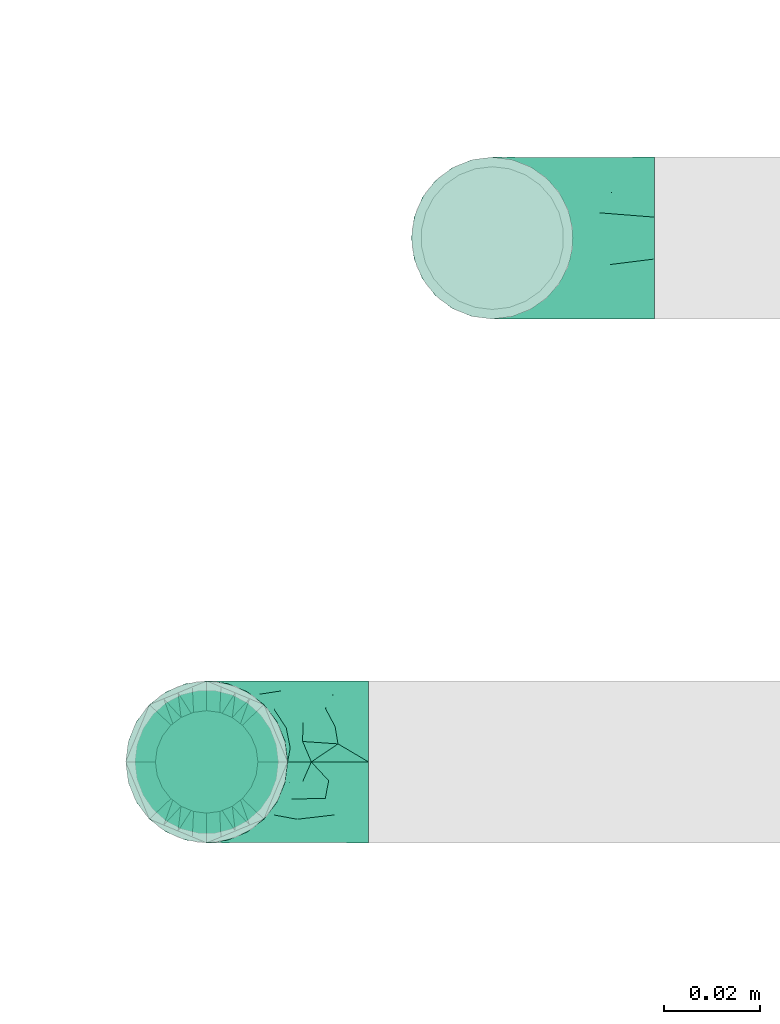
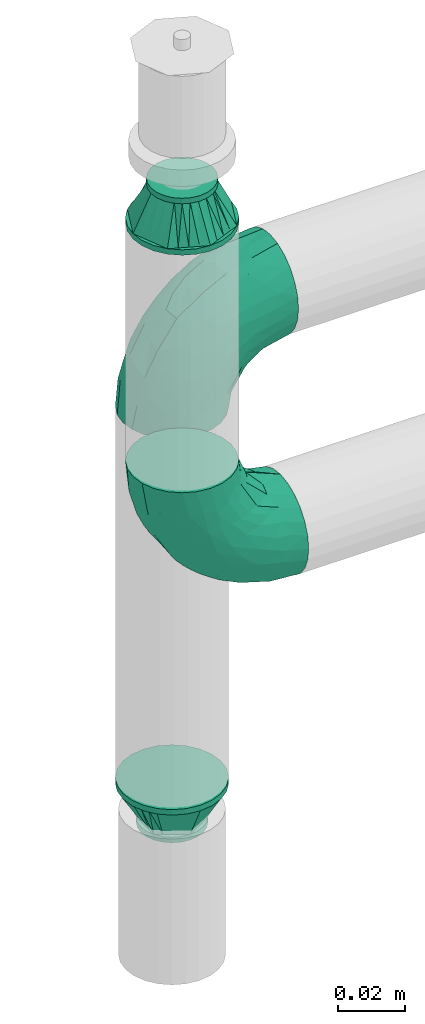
# One storey, part 36 of 157: 4 flow fittings.
"""IFC2X3 building model written with IfcOpenShell, lengths in millimetres."""

import ifcopenshell
import ifcopenshell.guid

model = None  # the IFC model being written
_history = None  # IfcOwnerHistory: only IFC2X3 demands one
_inside = {}  # id of a spatial element -> (the spatial element, [elements in it])
_under = {}  # id of a project, library or spatial element -> (it, [spatial elements below it])
_declared = {}  # id of a project -> (the project, [libraries it declares])
_typed = {}  # id of a type object -> (the type object, [elements of that type])
_made_of = {}  # id of a material, layer set ... -> (it, [elements and type objects made of it])


def new_model(schema):
    """Start an empty IFC model of exactly this schema.

    Asked for "IFC4X3", IfcOpenShell would pick the latest addendum, in which some entities
    have other attributes; the version numbers below select the first issue.
    IFC2X3 requires an IfcOwnerHistory on every rooted entity: one is made here for all.
    """
    global model, _history
    if schema == "IFC4X3":
        model = ifcopenshell.file(schema_version=(4, 3, 0, 0))
    else:
        model = ifcopenshell.file(schema=schema)
    _inside.clear()
    _under.clear()
    _declared.clear()
    _typed.clear()
    _made_of.clear()
    _history = None
    if model.schema == "IFC2X3":
        org = make("IfcOrganization", Name="unknown")
        user = make(
            "IfcPersonAndOrganization",
            ThePerson=make("IfcPerson", FamilyName="unknown"),
            TheOrganization=org,
        )
        app = make(
            "IfcApplication",
            ApplicationDeveloper=org,
            Version="unknown",
            ApplicationFullName="unknown",
            ApplicationIdentifier="unknown",
        )
        _history = make(
            "IfcOwnerHistory",
            OwningUser=user,
            OwningApplication=app,
            ChangeAction="ADDED",
            CreationDate=0,
        )
    return model


def make(cls, **values):
    """One entity of the class cls with the attributes given. An attribute that is None is left unset."""
    return model.create_entity(
        cls, **{name: value for name, value in values.items() if value is not None}
    )


def entity(cls, *values):
    """Any entity or typed value of the class cls, its attributes in the order of the schema. None: left unset."""
    e = model.create_entity(cls)
    for i, value in enumerate(values):
        if value is not None:
            e[i] = value
    return e


def rooted(cls, **values):
    """An entity with a GlobalId (a new one), such as an element, a storey or a relation."""
    return make(cls, GlobalId=ifcopenshell.guid.new(), OwnerHistory=_history, **values)


def si_unit(unit_type, name, prefix=None):
    """IfcSIUnit, for example si_unit("LENGTHUNIT", "METRE", prefix="MILLI")."""
    return make("IfcSIUnit", UnitType=unit_type, Prefix=prefix, Name=name)


def converted_unit(unit_type, name, factor, base, dimensions=None, offset=None):
    """IfcConversionBasedUnit, such as the inch: factor (a typed value) times the base unit."""
    return make(
        "IfcConversionBasedUnit"
        if offset is None
        else "IfcConversionBasedUnitWithOffset",
        ConversionOffset=offset,
        Dimensions=None
        if dimensions is None
        else entity("IfcDimensionalExponents", *dimensions),
        UnitType=unit_type,
        Name=name,
        ConversionFactor=make(
            "IfcMeasureWithUnit", ValueComponent=factor, UnitComponent=base
        ),
    )


def derived_unit(unit_type, elements):
    """IfcDerivedUnit: a product of units, each with its exponent."""
    return make(
        "IfcDerivedUnit",
        Elements=[
            make("IfcDerivedUnitElement", Unit=unit, Exponent=power)
            for unit, power in elements
        ],
        UnitType=unit_type,
    )


def assignment(units):
    """IfcUnitAssignment: the units of a project."""
    return None if units is None else make("IfcUnitAssignment", Units=units)


def point(xyz):
    """IfcCartesianPoint."""
    return None if xyz is None else make("IfcCartesianPoint", Coordinates=xyz)


def direction(xyz):
    """IfcDirection."""
    return None if xyz is None else make("IfcDirection", DirectionRatios=xyz)


def frame(location, z_axis=None, x_axis=None):
    """IfcAxis2Placement3D, a coordinate frame: its origin and axes. An axis left out is left unset."""
    return make(
        "IfcAxis2Placement3D",
        Location=point(location),
        Axis=direction(z_axis),
        RefDirection=direction(x_axis),
    )


def origin_with_axes():
    """The frame at (0, 0, 0) with the z axis (0, 0, 1) and the x axis (1, 0, 0) written out."""
    return frame((0.0, 0.0, 0.0), z_axis=(0.0, 0.0, 1.0), x_axis=(1.0, 0.0, 0.0))


def place(relative_to, where):
    """IfcLocalPlacement: puts the frame where relative to a parent placement (None: the world)."""
    return make(
        "IfcLocalPlacement", PlacementRelTo=relative_to, RelativePlacement=where
    )


def context(
    kind, dimensions, precision=None, world=None, true_north=None, identifier=None
):
    """IfcGeometricRepresentationContext, for example the 3D "Model" context."""
    return make(
        "IfcGeometricRepresentationContext",
        ContextIdentifier=identifier,
        ContextType=kind,
        CoordinateSpaceDimension=dimensions,
        Precision=precision,
        WorldCoordinateSystem=world,
        TrueNorth=true_north,
    )


def subcontext(parent, identifier, kind, view, scale=None):
    """IfcGeometricRepresentationSubContext, for example "Body" below "Model"."""
    return make(
        "IfcGeometricRepresentationSubContext",
        ContextIdentifier=identifier,
        ContextType=kind,
        ParentContext=parent,
        TargetScale=scale,
        TargetView=view,
    )


def project(units=None, contexts=None):
    """IfcProject with its units and contexts."""
    return rooted(
        "IfcProject",
        Name="project",
        RepresentationContexts=contexts,
        UnitsInContext=assignment(units),
    )


def spatial(cls, under=None, at=None, **own):
    """A site, building, storey or space (cls), placed at a placement, below another one or the project."""
    s = rooted(cls, ObjectPlacement=at, **own)
    if under is not None:
        _under.setdefault(under.id(), (under, []))[1].append(s)
    return s


def faces_of(points, faces, orient=None, outer=None):
    """IfcFace entities. A face is a list of loops; a loop is a list of indices into points, from 0.

    orient and outer hold one flag for each loop. By default every Orientation is true, the
    first loop of a face is its IfcFaceOuterBound and the others are IfcFaceBound.
    """
    made = []
    for i, loops in enumerate(faces):
        bounds = []
        for j, loop in enumerate(loops):
            is_outer = j == 0 if outer is None else outer[i][j]
            bounds.append(
                make(
                    "IfcFaceOuterBound" if is_outer else "IfcFaceBound",
                    Bound=make("IfcPolyLoop", Polygon=[points[k] for k in loop]),
                    Orientation=True if orient is None else orient[i][j],
                )
            )
        made.append(make("IfcFace", Bounds=bounds))
    return made


def open_shell(faces, orient=None, outer=None):
    """The faces of one IfcOpenShell. surface_model builds it on its shared points."""
    return ("IfcOpenShell", faces, orient, outer)


def surface_model(cls, points, shells):
    """IfcFaceBasedSurfaceModel or IfcShellBasedSurfaceModel (cls): surfaces that need not close."""
    shared = [point(p) for p in points]
    made = [make(c, CfsFaces=faces_of(shared, fs, o, b)) for c, fs, o, b in shells]
    if cls == "IfcFaceBasedSurfaceModel":
        return make(cls, FbsmFaces=made)
    return make(cls, SbsmBoundary=made)


def shape(context_of_items, identifier, shape_type, items):
    """IfcShapeRepresentation: the items that make up one representation, for example the "Body"."""
    return make(
        "IfcShapeRepresentation",
        ContextOfItems=context_of_items,
        RepresentationIdentifier=identifier,
        RepresentationType=shape_type,
        Items=items,
    )


def source(mapping_origin, context_of_items, identifier, shape_type, items):
    """IfcRepresentationMap: a shape defined once, which mapped items show again and again."""
    return make(
        "IfcRepresentationMap",
        MappingOrigin=mapping_origin,
        MappedRepresentation=shape(context_of_items, identifier, shape_type, items),
    )


def transform(
    local_origin,
    x_axis=None,
    y_axis=None,
    z_axis=None,
    scale=None,
    scale2=None,
    scale3=None,
    uniform=True,
):
    """IfcCartesianTransformationOperator3D, or its non-uniform kind. x_axis, y_axis, z_axis: its Axis1, 2, 3."""
    if uniform:
        return make(
            "IfcCartesianTransformationOperator3D",
            Axis1=direction(x_axis),
            Axis2=direction(y_axis),
            LocalOrigin=point(local_origin),
            Scale=scale,
            Axis3=direction(z_axis),
        )
    return make(
        "IfcCartesianTransformationOperator3DnonUniform",
        Axis1=direction(x_axis),
        Axis2=direction(y_axis),
        LocalOrigin=point(local_origin),
        Scale=scale,
        Axis3=direction(z_axis),
        Scale2=scale2,
        Scale3=scale3,
    )


def mapped(mapping_source, mapping_target):
    """IfcMappedItem: shows the shape of a source again, moved by a transform."""
    return make(
        "IfcMappedItem", MappingSource=mapping_source, MappingTarget=mapping_target
    )


def made_of(thing, what):
    """Note that an element or type object is made of a material, layer set ...; save() writes the relation."""
    if what is not None:
        _made_of.setdefault(what.id(), (what, []))[1].append(thing)
    return thing


def type_object(cls, material=None, **own):
    """A type object (cls), such as IfcWallType, which elements share."""
    return made_of(rooted(cls, **own), material)


def element(
    cls,
    number,
    at=None,
    inside=None,
    cuts=None,
    type_object=None,
    material=None,
    context=None,
    identifier="Body",
    shape_type=None,
    held_by="IfcProductDefinitionShape",
    body=None,
    shapes=None,
    **own,
):
    """One element of the class cls, such as IfcWall. Its Tag is "e" and its number.

    at: its placement. inside: the storey or other place that contains it. cuts: it is an
    opening in that element (IfcRelVoidsElement). A single representation is given by context,
    identifier, shape_type and body (its items); several are given by shapes. held_by: the class
    of the entity that holds the representations. save() writes the other relations.
    """
    e = rooted(cls, Tag="e%d" % number, ObjectPlacement=at, **own)
    if body is not None:
        shapes = [shape(context, identifier, shape_type, body)]
    if shapes is not None:
        e.Representation = make(held_by, Representations=shapes)
    if inside is not None:
        _inside.setdefault(inside.id(), (inside, []))[1].append(e)
    if cuts is not None:
        rooted(
            "IfcRelVoidsElement", RelatingBuildingElement=cuts, RelatedOpeningElement=e
        )
    if type_object is not None:
        _typed.setdefault(type_object.id(), (type_object, []))[1].append(e)
    return made_of(e, material)


def aggregate(whole, parts):
    """IfcRelAggregates: a whole, such as a stair, and the parts it consists of."""
    return rooted("IfcRelAggregates", RelatingObject=whole, RelatedObjects=parts)


def save(model, path):
    """Write the relations noted so far, then the file.

    IfcRelAggregates (storeys below a building ...), IfcRelContainedInSpatialStructure (elements
    in a storey), IfcRelDefinesByType, IfcRelAssociatesMaterial and IfcRelDeclares: one each for
    every whole, place, type object, material and project.
    """
    for whole, parts in _under.values():
        aggregate(whole, parts)
    for where, things in _inside.values():
        rooted(
            "IfcRelContainedInSpatialStructure",
            RelatedElements=things,
            RelatingStructure=where,
        )
    for kind, things in _typed.values():
        rooted("IfcRelDefinesByType", RelatedObjects=things, RelatingType=kind)
    for what, things in _made_of.values():
        rooted("IfcRelAssociatesMaterial", RelatedObjects=things, RelatingMaterial=what)
    for by, libraries in _declared.values():
        rooted("IfcRelDeclares", RelatingContext=by, RelatedDefinitions=libraries)
    model.write(path)


model = new_model("IFC2X3")

# Units and contexts
model_context = context("Model", 3, precision=0.01, world=frame((0.0, 4.29681676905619e-09, 0.0)), true_north=direction((4.01073788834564e-13, 1.0)))
plan_context = context("Plan", 3, precision=0.01, world=frame((0.0, 4.29681676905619e-09, 0.0)), true_north=direction((4.01073788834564e-13, 1.0)))
body_context = subcontext(model_context, "Body", "Model", "MODEL_VIEW")
ifc_project = project(units=[converted_unit("PLANEANGLEUNIT", "DEGREE", entity("IfcPositiveLengthMeasure", 0.0174532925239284), si_unit("PLANEANGLEUNIT", "RADIAN"), dimensions=[0, 0, 0, 0, 0, 0, 0]), si_unit("AREAUNIT", "SQUARE_METRE"), si_unit("LENGTHUNIT", "METRE", prefix="MILLI"), si_unit("MASSUNIT", "GRAM", prefix="KILO"), si_unit("POWERUNIT", "WATT"), si_unit("PRESSUREUNIT", "PASCAL"), si_unit("FORCEUNIT", "NEWTON", prefix="KILO"), si_unit("ELECTRICCURRENTUNIT", "AMPERE"), si_unit("THERMODYNAMICTEMPERATUREUNIT", "DEGREE_CELSIUS"), si_unit("TIMEUNIT", "SECOND"), si_unit("VOLUMEUNIT", "CUBIC_METRE"), derived_unit("LINEARVELOCITYUNIT", [(si_unit("LENGTHUNIT", "METRE"), 1), (si_unit("TIMEUNIT", "SECOND"), -1)]), derived_unit("VOLUMETRICFLOWRATEUNIT", [(si_unit("VOLUMEUNIT", "CUBIC_METRE"), 1), (si_unit("TIMEUNIT", "SECOND"), -1)]), derived_unit("THERMALTRANSMITTANCEUNIT", [(si_unit("POWERUNIT", "WATT"), 1), (si_unit("THERMODYNAMICTEMPERATUREUNIT", "KELVIN"), -1), (si_unit("AREAUNIT", "SQUARE_METRE"), -1)])], contexts=[model_context, plan_context])

# Site, building, storey
site_placement = place(None, frame((0.0, -4.29681676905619e-09, 0.0), z_axis=(0.0, 0.0, 1.0), x_axis=(1.0, 0.0, 0.0)))
site = spatial("IfcSite", under=ifc_project, at=site_placement, CompositionType="ELEMENT")
building_placement = place(site_placement, frame((0.0, 4.29681676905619e-09, 0.0), z_axis=(0.0, 0.0, 1.0), x_axis=(1.0, 0.0, 0.0)))
building = spatial("IfcBuilding", under=site, at=building_placement, Name="mc-building", CompositionType="ELEMENT")
storey_placement = place(building_placement, frame((0.0, 0.0, 204000.0), z_axis=(0.0, 0.0, 1.0), x_axis=(1.0, 0.0, 0.0)))
storey = spatial("IfcBuildingStorey", under=building, at=storey_placement, Name="Nivå D", CompositionType="ELEMENT", Elevation=204000.0)

# Flow fittings
pipe_fitting_type_1 = type_object("IfcPipeFittingType", Name="magi_pipe_fe_reducer_centric_short_NOR", PredefinedType="TRANSITION")
shared_shape_1 = source(origin_with_axes(), body_context, "Body", "SurfaceModel", [
    surface_model("IfcShellBasedSurfaceModel", [(14.4, 5.35, -9.26647), (14.4, 0.0, -10.7), (14.4, 2.76936, -10.33541), (14.4, 10.33541, -2.76936), (14.4, 7.56604, -7.56604), (14.4, -10.33541, -2.76936), (14.4, 9.26647, -5.35), (14.4, 0.0, 10.7), (14.4, -5.35, -9.26647), (14.4, -2.76936, -10.33541), (14.4, -7.56604, -7.56604), (14.4, -9.26647, -5.35), (14.4, 10.7, 0.0), (14.4, 10.33541, 2.76936), (14.4, 9.26647, 5.35), (14.4, 7.56604, 7.56604), (14.4, 2.76936, 10.33541), (14.4, 5.35, 9.26647), (14.4, -10.33541, 2.76936), (14.4, -7.56604, 7.56604), (14.4, -9.26647, 5.35), (14.4, -10.7, 0.0), (14.4, -2.76936, 10.33541), (14.4, -5.35, 9.26647), (12.4, 2.76936, 10.33541), (12.4, -10.33541, -2.76936), (12.4, 0.0, 10.7), (12.4, 5.35, 9.26647), (12.4, 7.56604, 7.56604), (12.4, 9.26647, 5.35), (12.4, 10.33541, 2.76936), (12.4, -10.33541, 2.76936), (12.4, -2.76936, 10.33541), (12.4, -7.56604, 7.56604), (12.4, -5.35, 9.26647), (12.4, -9.26647, 5.35), (12.4, -10.7, 0.0), (12.4, 10.33541, -2.76936), (12.4, 5.35, -9.26647), (12.4, 9.26647, -5.35), (12.4, 7.56604, -7.56604), (12.4, 2.76936, -10.33541), (12.4, -9.26647, -5.35), (12.4, -5.35, -9.26647), (12.4, -7.56604, -7.56604), (12.4, 0.0, -10.7), (12.4, -2.76936, -10.33541), (12.4, 10.7, 0.0), (-2.0, 11.9501, 11.9501), (-2.0, 0.0, 16.9), (-2.0, 4.37404, 16.32415), (-2.0, 8.45, 14.63583), (-2.0, 14.63583, 8.45), (-2.0, 16.32415, 4.37404), (-2.0, -16.32415, 4.37404), (-2.0, -8.45, 14.63583), (-2.0, -14.63583, 8.45), (-2.0, -11.9501, 11.9501), (-2.0, -4.37404, 16.32415), (-2.0, -16.32415, -4.37404), (-2.0, -16.9, 0.0), (-2.0, -8.45, -14.63583), (-2.0, 16.32415, -4.37404), (-2.0, 11.9501, -11.9501), (-2.0, 14.63583, -8.45), (-2.0, 8.45, -14.63583), (-2.0, 4.37404, -16.32415), (-2.0, 0.0, -16.9), (-2.0, -11.9501, -11.9501), (-2.0, -14.63583, -8.45), (-2.0, -4.37404, -16.32415), (-2.0, 16.9, 0.0), (0.0, 4.37404, -16.32415), (0.0, 8.45, -14.63583), (0.0, 11.9501, -11.9501), (0.0, 0.0, -16.9), (0.0, 16.32415, -4.37404), (0.0, 16.32415, 4.37404), (0.0, 14.63583, -8.45), (0.0, -8.45, -14.63583), (0.0, -4.37404, -16.32415), (0.0, -11.9501, -11.9501), (0.0, -16.32415, -4.37404), (0.0, -14.63583, -8.45), (0.0, -16.32415, 4.37404), (0.0, 16.9, 0.0), (0.0, 14.63583, 8.45), (0.0, 11.9501, 11.9501), (0.0, 4.37404, 16.32415), (0.0, 8.45, 14.63583), (0.0, 0.0, 16.9), (0.0, -14.63583, 8.45), (0.0, -16.9, 0.0), (0.0, -8.45, 14.63583), (0.0, -11.9501, 11.9501), (0.0, -4.37404, 16.32415), (12.4, 9.3625, -2.31662), (0.0, 14.42505, -5.97505), (0.0, 15.66253, -2.98753), (12.4, -6.6875, -6.94985), (0.0, -13.18758, -8.96258), (0.0, 2.98753, -15.66253), (12.4, 0.0, -9.26647), (12.4, 6.6875, -6.94985), (0.0, 8.96258, -13.18758), (12.4, -9.3625, -2.31662), (0.0, -15.66253, -2.98753), (0.0, -14.42505, -5.97505), (0.0, 5.97505, -14.42505), (0.0, -2.98753, -15.66253), (0.0, -8.96258, -13.18758), (0.0, 13.18758, -8.96258), (12.4, 8.025, -4.63324), (12.4, -2.675, -9.26647), (12.4, 2.675, -9.26647), (0.0, -5.97505, -14.42505), (12.4, -8.025, -4.63324), (12.4, -9.3625, 2.31662), (0.0, -14.42505, 5.97505), (0.0, -15.66253, 2.98753), (12.4, 6.6875, 6.94985), (0.0, 13.18758, 8.96258), (0.0, -2.98753, 15.66253), (12.4, 0.0, 9.26647), (12.4, -6.6875, 6.94985), (0.0, -8.96258, 13.18758), (12.4, 9.3625, 2.31662), (0.0, 15.66253, 2.98753), (0.0, 14.42505, 5.97505), (0.0, -5.97505, 14.42505), (0.0, 2.98753, 15.66253), (0.0, 8.96258, 13.18758), (0.0, -13.18758, 8.96258), (12.4, -8.025, 4.63324), (12.4, 2.675, 9.26647), (12.4, -2.675, 9.26647), (0.0, 5.97505, 14.42505), (12.4, 8.025, 4.63324)], [open_shell([[[0, 1, 2]], [[3, 0, 4]], [[5, 0, 3]], [[3, 4, 6]], [[7, 5, 3]], [[1, 8, 9]], [[1, 0, 8]], [[10, 5, 11]], [[5, 10, 8]], [[0, 5, 8]], [[3, 12, 13]], [[13, 14, 15]], [[13, 15, 16]], [[7, 3, 16]], [[16, 15, 17]], [[7, 18, 5]], [[18, 19, 20]], [[21, 5, 18]], [[19, 22, 23]], [[22, 19, 18]], [[7, 22, 18]], [[13, 16, 3]], [[24, 25, 26]], [[27, 25, 24]], [[28, 29, 30]], [[28, 25, 27]], [[31, 26, 25]], [[32, 33, 34]], [[33, 32, 31]], [[33, 31, 35]], [[32, 26, 31]], [[31, 25, 36]], [[30, 37, 28]], [[25, 28, 37]], [[38, 37, 39]], [[37, 38, 25]], [[38, 39, 40]], [[41, 25, 38]], [[42, 43, 44]], [[43, 42, 25]], [[43, 45, 46]], [[43, 25, 41]], [[41, 45, 43]], [[37, 30, 47]], [[25, 5, 36]], [[42, 11, 25]], [[8, 44, 43]], [[42, 44, 10]], [[9, 43, 46]], [[25, 11, 5]], [[5, 21, 36]], [[9, 8, 43]], [[10, 44, 8]], [[10, 11, 42]], [[1, 9, 46]], [[46, 45, 1]], [[41, 2, 45]], [[38, 0, 41]], [[6, 40, 39]], [[38, 40, 4]], [[3, 39, 37]], [[38, 4, 0]], [[0, 2, 41]], [[12, 3, 37]], [[6, 39, 3]], [[6, 4, 40]], [[47, 12, 37]], [[45, 2, 1]], [[30, 13, 47]], [[29, 14, 30]], [[17, 28, 27]], [[29, 28, 15]], [[16, 27, 24]], [[30, 14, 13]], [[13, 12, 47]], [[16, 17, 27]], [[15, 28, 17]], [[15, 14, 29]], [[7, 16, 24]], [[24, 26, 7]], [[32, 22, 26]], [[34, 23, 32]], [[20, 33, 35]], [[34, 33, 19]], [[18, 35, 31]], [[34, 19, 23]], [[23, 22, 32]], [[21, 18, 31]], [[20, 35, 18]], [[20, 19, 33]], [[36, 21, 31]], [[26, 22, 7]], [[48, 49, 50]], [[48, 50, 51]], [[48, 52, 53]], [[48, 53, 49]], [[49, 53, 54]], [[55, 56, 57]], [[55, 58, 49]], [[56, 55, 49]], [[49, 54, 56]], [[54, 59, 60]], [[54, 53, 61]], [[53, 62, 63]], [[63, 62, 64]], [[63, 65, 66]], [[61, 53, 63]], [[67, 63, 66]], [[59, 68, 69]], [[68, 59, 61]], [[61, 67, 70]], [[59, 54, 61]], [[63, 67, 61]], [[53, 71, 62]], [[72, 73, 74]], [[75, 72, 74]], [[74, 76, 77]], [[76, 74, 78]], [[74, 77, 79]], [[75, 79, 80]], [[75, 74, 79]], [[81, 82, 83]], [[82, 81, 79]], [[79, 84, 82]], [[77, 76, 85]], [[77, 86, 87]], [[77, 87, 88]], [[88, 84, 79]], [[88, 87, 89]], [[84, 88, 90]], [[90, 91, 84]], [[92, 82, 84]], [[91, 93, 94]], [[91, 90, 93]], [[93, 90, 95]], [[79, 77, 88]], [[59, 82, 60]], [[69, 83, 59]], [[79, 68, 61]], [[69, 68, 81]], [[80, 61, 70]], [[59, 83, 82]], [[82, 92, 60]], [[80, 79, 61]], [[81, 68, 79]], [[81, 83, 69]], [[75, 80, 70]], [[70, 67, 75]], [[66, 72, 67]], [[65, 73, 66]], [[78, 63, 64]], [[65, 63, 74]], [[76, 64, 62]], [[65, 74, 73]], [[73, 72, 66]], [[85, 76, 62]], [[78, 64, 76]], [[78, 74, 63]], [[71, 85, 62]], [[67, 72, 75]], [[53, 77, 71]], [[52, 86, 53]], [[89, 48, 51]], [[52, 48, 87]], [[88, 51, 50]], [[53, 86, 77]], [[77, 85, 71]], [[88, 89, 51]], [[87, 48, 89]], [[87, 86, 52]], [[90, 88, 50]], [[50, 49, 90]], [[58, 95, 49]], [[55, 93, 58]], [[91, 57, 56]], [[55, 57, 94]], [[84, 56, 54]], [[55, 94, 93]], [[93, 95, 58]], [[92, 84, 54]], [[91, 56, 84]], [[91, 94, 57]], [[60, 92, 54]], [[49, 95, 90]], [[27, 34, 47]], [[47, 34, 43]], [[43, 38, 47]], [[43, 34, 36]], [[90, 87, 94]], [[92, 94, 87]], [[87, 74, 92]], [[75, 92, 74]], [[81, 92, 75]], [[74, 87, 85]], [[96, 97, 98]], [[81, 99, 100]], [[101, 102, 75]], [[98, 85, 47]], [[74, 103, 104]], [[104, 103, 38]], [[105, 106, 107]], [[38, 108, 104]], [[102, 109, 75]], [[110, 99, 81]], [[47, 96, 98]], [[103, 111, 112]], [[109, 102, 113]], [[36, 92, 106]], [[102, 101, 114]], [[110, 115, 43]], [[96, 112, 97]], [[107, 116, 105]], [[36, 106, 105]], [[113, 115, 109]], [[43, 115, 113]], [[116, 107, 100]], [[108, 38, 114]], [[111, 103, 74]], [[111, 97, 112]], [[99, 110, 43]], [[116, 100, 99]], [[101, 108, 114]], [[117, 118, 119]], [[87, 120, 121]], [[122, 123, 90]], [[119, 92, 36]], [[94, 124, 125]], [[125, 124, 34]], [[126, 127, 128]], [[34, 129, 125]], [[123, 130, 90]], [[131, 120, 87]], [[36, 117, 119]], [[124, 132, 133]], [[130, 123, 134]], [[47, 85, 127]], [[123, 122, 135]], [[131, 136, 27]], [[117, 133, 118]], [[128, 137, 126]], [[47, 127, 126]], [[134, 136, 130]], [[27, 136, 134]], [[137, 128, 121]], [[129, 34, 135]], [[132, 124, 94]], [[132, 118, 133]], [[120, 131, 27]], [[137, 121, 120]], [[122, 129, 135]]])]),
])
flow_fitting_1_placement = place(storey_placement, frame((524500.0, 408200.0, 2709.35200000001), z_axis=(1.0, 0.0, 0.0), x_axis=(0.0, 0.0, -1.0)))
element("IfcFlowFitting", 1, at=flow_fitting_1_placement, inside=storey, type_object=pipe_fitting_type_1, Name="magi_pipe_fe_reducer_centric_short_NOR", context=body_context, shape_type="MappedRepresentation", body=[
    mapped(shared_shape_1, transform((0.0, 0.0, 0.0), scale=1.0)),
])
pipe_fitting_type_2 = type_object("IfcPipeFittingType", Name="magi_pipe_fe_elbow_short_001", PredefinedType="BEND")
shared_shape_2 = source(origin_with_axes(), body_context, "Body", "SurfaceModel", [
    surface_model("IfcShellBasedSurfaceModel", [(-33.8, 8.45, -14.63583), (-33.8, 4.37404, -16.32415), (-33.8, 11.9501, -11.9501), (-33.8, -11.9501, -11.9501), (-33.8, -14.63583, -8.45), (-33.8, -8.45, -14.63583), (-33.8, 0.0, -16.9), (-33.8, -4.37404, -16.32415), (-33.8, -4.37404, 16.32415), (-33.8, 0.0, 16.9), (-33.8, -8.45, 14.63583), (-33.8, 16.32415, -4.37404), (-33.8, 14.63583, -8.45), (-33.8, -16.32415, -4.37404), (-33.8, -16.9, 0.0), (-33.8, -16.32415, 4.37404), (-33.8, 11.9501, 11.9501), (-33.8, 14.63583, 8.45), (-33.8, 16.32415, 4.37404), (-33.8, 4.37404, 16.32415), (-33.8, 8.45, 14.63583), (-33.8, -14.63583, 8.45), (-33.8, -11.9501, 11.9501), (-33.8, 16.9, 0.0), (-11.9501, 33.8, -11.9501), (0.0, 33.8, -16.9), (-4.37404, 33.8, -16.32415), (-8.45, 33.8, -14.63583), (-14.63583, 33.8, -8.45), (-16.32415, 33.8, -4.37404), (14.63583, 33.8, -8.45), (8.45, 33.8, 14.63583), (16.32415, 33.8, -4.37404), (8.45, 33.8, -14.63583), (11.9501, 33.8, -11.9501), (4.37404, 33.8, -16.32415), (16.32415, 33.8, 4.37404), (16.9, 33.8, 0.0), (-11.9501, 33.8, 11.9501), (-16.32415, 33.8, 4.37404), (-14.63583, 33.8, 8.45), (-8.45, 33.8, 14.63583), (-4.37404, 33.8, 16.32415), (11.9501, 33.8, 11.9501), (14.63583, 33.8, 8.45), (0.0, 33.8, 16.9), (4.37404, 33.8, 16.32415), (-16.9, 33.8, 0.0), (-24.79389, -13.12945, 9.48721), (-22.19287, -9.75018, 12.59315), (-24.09897, -14.97035, 0.0), (-14.93934, -10.76256, 8.5297), (-22.46095, -14.75051, 5.27077), (14.75051, 22.46094, 5.27077), (11.9251, 13.23888, 4.33236), (13.04069, 14.39795, 0.0), (7.71387, 13.68847, 11.55891), (9.75018, 22.19287, 12.59315), (4.10169, 13.0571, 14.04018), (-24.84007, -6.39063, 15.2048), (-25.81779, -2.23879, 16.61097), (-23.66549, 2.59054, 16.87119), (-26.50418, 14.06512, 11.08152), (-24.21253, 17.66365, 7.72657), (-29.58514, 15.86957, 7.00283), (-6.17382, -7.5455, 0.0), (-13.23888, -11.9251, 4.33236), (-14.39795, -13.04069, 0.0), (-17.81434, 18.87373, 11.97104), (-6.30846, 29.15138, 15.82987), (-2.31622, 25.28002, 16.85849), (-29.23923, 10.23435, 13.77053), (-1.45439, -2.85688, 7.61475), (-0.28326, 0.34872, 10.09509), (-5.74484, -4.04709, 10.4122), (-4.41137, 11.31918, 16.59407), (-8.39727, 3.10034, 15.7812), (-1.72649, 9.1306, 15.53089), (-17.39909, 24.75344, 7.64977), (-26.19233, 20.0512, 0.0), (-28.14518, 17.29657, 4.25857), (-26.05147, 6.6281, 15.96447), (-5.87354, 16.61944, 16.86968), (-12.51807, 12.51807, 16.48937), (-10.06312, 7.38516, 16.81295), (-3.01882, 3.01882, 13.81718), (-13.0571, -4.10169, 14.04018), (-16.82553, -0.15166, 16.38038), (10.76256, 14.93934, 8.5297), (13.12945, 24.79389, 9.48721), (6.39063, 24.84007, 15.2048), (2.23879, 25.81779, 16.61097), (-13.68847, -7.71387, 11.55891), (14.97035, 24.09897, 0.0), (-7.30894, 22.89991, 16.09489), (-10.67958, 26.17414, 14.008), (-12.78295, 18.26924, 15.06066), (-13.88562, 22.45231, 12.93244), (-18.04944, 15.16501, 14.04434), (-23.11658, 20.08178, 4.02986), (-21.84989, 21.84989, 0.0), (-18.55817, 25.48277, 3.93065), (-13.95142, 26.94732, 11.03289), (-18.57098, 7.23906, 16.59756), (-16.58335, 4.14122, 16.89279), (-17.96666, 11.46709, 15.63151), (-9.84453, 17.54304, 16.18938), (0.15166, 16.82553, 16.38038), (-23.27207, 11.47201, 14.23154), (3.84842, 5.86994, 10.70473), (-8.0212, -7.54413, 7.93275), (1.00345, -2.19508, 4.57414), (5.13203, 3.01004, 5.90201), (5.24161, 1.7543, 2.53265), (8.70457, 7.04947, 3.99182), (-20.0512, 26.19233, 0.0), (8.4852, 8.76699, 7.09296), (-4.55488, -6.72064, 4.90681), (2.05031, -2.05031, 0.0), (7.5455, 6.17382, 0.0), (-26.75399, 2.1369, -16.845), (-14.61995, 24.73803, -11.27736), (-28.45274, -13.45335, -9.81895), (-26.00469, 6.63555, -15.96645), (-23.06726, 20.04573, -4.26202), (-13.80647, -4.26506, -14.17873), (-14.67501, -0.21081, -16.07388), (-6.7902, -0.2828, -13.8478), (-24.53586, 11.08096, -14.13417), (-26.72048, 14.00837, -11.05776), (10.0967, 24.44989, -12.75976), (5.83237, 21.40218, -15.03047), (6.66249, 28.54238, -15.38093), (-20.38182, 15.48705, -12.74596), (12.53268, 21.23441, -9.15363), (12.54494, 15.67504, -5.54878), (9.7522, 12.89279, -8.66343), (-15.65186, 19.64213, -13.01327), (-12.03528, 20.66498, -14.67665), (-15.61907, 15.61906, -14.83879), (-25.56551, -15.26206, 0.0), (-24.65452, -15.12934, -5.50955), (13.45335, 28.45274, -9.81895), (15.12934, 24.65452, -5.50955), (-7.35442, -8.31014, -5.65563), (-15.67504, -12.54494, -5.54878), (-24.44989, -10.0967, -12.75976), (0.16522, 0.41303, -9.71728), (-5.70658, -5.33066, -8.89288), (-5.13869, -2.37198, -11.53565), (-21.23441, -12.53268, -9.15363), (0.71146, 7.93863, -14.09382), (0.21081, 14.67501, -16.07388), (3.49291, 14.42772, -14.76381), (-24.89911, -2.13088, -16.591), (-28.54238, -6.66249, -15.38093), (-18.44386, -7.71663, -13.26957), (2.13088, 24.89911, -16.591), (-28.64342, 17.44413, -2.89318), (1.70017, -1.28722, -5.09504), (-16.57067, 26.81947, -7.36596), (-17.69055, 27.4263, -3.76405), (-12.89279, -9.7522, -8.66343), (-5.96611, 5.96611, -15.95814), (-20.53709, 20.09345, -8.28985), (-2.1369, 26.75399, -16.845), (-6.89872, 24.58781, -16.02578), (-10.60739, 26.53157, -13.98044), (-21.40218, -5.83237, -15.03047), (2.93192, 5.89627, -11.55917), (6.89393, 12.61842, -11.82233), (5.58056, 5.95325, -8.79455), (-3.99512, 18.61798, -16.89635), (8.31014, 7.35442, -5.65563), (-9.1383, 9.86148, -16.89041), (-9.99983, 16.02119, -16.39699), (-16.68576, 9.78031, -16.34199), (-27.01915, 16.61158, -7.12979), (15.26206, 25.56551, 0.0), (-18.61798, 3.99512, -16.89635), (-19.37495, 27.82495, 0.0), (-12.61842, -6.89393, -11.82233), (-18.84705, 19.14018, -10.96545)], [open_shell([[[0, 1, 2]], [[3, 4, 5]], [[6, 7, 5]], [[8, 9, 10]], [[1, 6, 2]], [[11, 12, 2]], [[4, 2, 6]], [[2, 13, 10]], [[5, 4, 6]], [[2, 4, 13]], [[14, 15, 13]], [[11, 2, 16]], [[11, 17, 18]], [[11, 16, 17]], [[19, 20, 16]], [[16, 2, 10]], [[19, 16, 10]], [[21, 22, 15]], [[22, 13, 15]], [[22, 10, 13]], [[10, 9, 19]], [[11, 18, 23]], [[24, 25, 26]], [[24, 26, 27]], [[24, 28, 29]], [[25, 24, 30]], [[31, 32, 24]], [[33, 30, 34]], [[33, 35, 25]], [[25, 30, 33]], [[32, 30, 24]], [[32, 36, 37]], [[38, 24, 29]], [[39, 40, 29]], [[40, 38, 29]], [[38, 41, 42]], [[38, 31, 24]], [[31, 38, 42]], [[36, 43, 44]], [[36, 32, 43]], [[31, 45, 46]], [[32, 31, 43]], [[42, 45, 31]], [[39, 29, 47]], [[22, 48, 49]], [[15, 14, 50]], [[51, 48, 52]], [[53, 54, 55]], [[48, 22, 21]], [[15, 52, 21]], [[56, 57, 58]], [[49, 10, 22]], [[49, 59, 10]], [[9, 60, 61]], [[62, 63, 64]], [[65, 66, 67]], [[57, 43, 31]], [[62, 68, 63]], [[42, 69, 70]], [[20, 71, 16]], [[8, 60, 9]], [[72, 73, 74]], [[75, 76, 77]], [[16, 62, 17]], [[40, 39, 78]], [[79, 23, 80]], [[64, 18, 17]], [[9, 61, 19]], [[19, 81, 20]], [[82, 83, 84]], [[74, 85, 86]], [[59, 86, 87]], [[88, 89, 57]], [[90, 31, 46]], [[44, 53, 36]], [[46, 45, 91]], [[54, 53, 88]], [[44, 89, 53]], [[92, 86, 49]], [[89, 44, 43]], [[10, 59, 8]], [[53, 55, 93]], [[93, 36, 53]], [[66, 52, 67]], [[94, 82, 70]], [[95, 96, 94]], [[97, 98, 96]], [[79, 99, 100]], [[41, 38, 95]], [[101, 100, 99]], [[68, 78, 63]], [[42, 41, 69]], [[23, 18, 80]], [[95, 94, 69]], [[78, 101, 99]], [[38, 102, 95]], [[70, 45, 42]], [[97, 95, 102]], [[15, 50, 52]], [[90, 57, 31]], [[57, 90, 58]], [[81, 19, 61]], [[103, 104, 84]], [[105, 81, 103]], [[38, 40, 102]], [[106, 96, 83]], [[94, 106, 82]], [[91, 70, 107]], [[71, 62, 16]], [[62, 108, 98]], [[86, 59, 49]], [[67, 52, 50]], [[60, 59, 87]], [[92, 49, 51]], [[86, 85, 76]], [[91, 90, 46]], [[37, 36, 93]], [[107, 77, 58]], [[107, 58, 90]], [[58, 85, 109]], [[110, 74, 92]], [[72, 74, 110]], [[66, 51, 52]], [[72, 111, 112]], [[113, 114, 112]], [[56, 88, 57]], [[52, 48, 21]], [[49, 48, 51]], [[57, 89, 43]], [[53, 89, 88]], [[103, 81, 61]], [[71, 81, 108]], [[18, 64, 80]], [[63, 78, 99]], [[47, 115, 101]], [[101, 115, 100]], [[40, 78, 102]], [[68, 102, 78]], [[97, 96, 95]], [[105, 98, 108]], [[103, 84, 83]], [[107, 70, 82]], [[76, 84, 87]], [[82, 84, 75]], [[70, 91, 45]], [[90, 91, 107]], [[59, 60, 8]], [[61, 60, 87]], [[73, 85, 74]], [[109, 112, 116]], [[103, 61, 104]], [[105, 103, 83]], [[96, 105, 83]], [[81, 105, 108]], [[96, 98, 105]], [[62, 98, 68]], [[61, 87, 104]], [[87, 84, 104]], [[86, 76, 87]], [[77, 76, 85]], [[58, 77, 85]], [[75, 77, 107]], [[82, 75, 107]], [[76, 75, 84]], [[81, 71, 20]], [[62, 71, 108]], [[95, 69, 41]], [[70, 69, 94]], [[62, 64, 17]], [[80, 63, 99]], [[63, 80, 64]], [[80, 99, 79]], [[66, 65, 117]], [[110, 66, 117]], [[112, 114, 116]], [[118, 117, 65]], [[110, 92, 51]], [[112, 111, 113]], [[119, 55, 54]], [[74, 86, 92]], [[58, 109, 56]], [[116, 56, 109]], [[66, 110, 51]], [[72, 110, 117]], [[111, 72, 117]], [[73, 112, 109]], [[117, 118, 111]], [[113, 111, 118]], [[118, 119, 113]], [[114, 119, 54]], [[119, 114, 113]], [[116, 54, 88]], [[54, 116, 114]], [[116, 88, 56]], [[112, 73, 72]], [[85, 73, 109]], [[78, 39, 101]], [[47, 101, 39]], [[102, 68, 97]], [[97, 68, 98]], [[82, 106, 83]], [[94, 96, 106]], [[1, 120, 6]], [[28, 24, 121]], [[3, 122, 4]], [[0, 123, 1]], [[100, 124, 79]], [[125, 126, 127]], [[128, 2, 129]], [[130, 131, 132]], [[128, 129, 133]], [[134, 135, 136]], [[137, 138, 139]], [[128, 0, 2]], [[67, 140, 141]], [[134, 142, 143]], [[141, 13, 4]], [[144, 65, 145]], [[146, 3, 5]], [[147, 148, 149]], [[145, 141, 150]], [[151, 152, 153]], [[154, 7, 6]], [[5, 155, 146]], [[150, 146, 156]], [[155, 5, 7]], [[143, 135, 134]], [[35, 157, 25]], [[23, 79, 158]], [[148, 159, 144]], [[160, 161, 29]], [[145, 162, 144]], [[163, 152, 151]], [[29, 28, 160]], [[121, 164, 160]], [[33, 34, 130]], [[25, 165, 26]], [[26, 165, 166]], [[142, 34, 30]], [[24, 27, 167]], [[124, 161, 164]], [[157, 35, 132]], [[155, 154, 168]], [[123, 0, 128]], [[169, 170, 171]], [[172, 157, 152]], [[26, 166, 27]], [[132, 35, 33]], [[142, 130, 34]], [[168, 154, 126]], [[136, 135, 173]], [[133, 137, 139]], [[2, 12, 129]], [[170, 131, 130]], [[30, 32, 143]], [[172, 174, 175]], [[176, 123, 128]], [[158, 177, 11]], [[135, 55, 119]], [[167, 27, 166]], [[175, 166, 172]], [[137, 167, 138]], [[122, 141, 4]], [[140, 14, 13]], [[32, 37, 178]], [[170, 130, 134]], [[152, 157, 131]], [[165, 157, 172]], [[153, 170, 151]], [[152, 163, 174]], [[168, 125, 156]], [[122, 146, 150]], [[120, 154, 6]], [[179, 174, 126]], [[179, 126, 154]], [[126, 163, 127]], [[162, 145, 150]], [[140, 13, 141]], [[32, 178, 143]], [[55, 143, 178]], [[177, 129, 12]], [[128, 133, 139]], [[176, 128, 139]], [[120, 123, 179]], [[121, 160, 28]], [[161, 100, 180]], [[166, 175, 138]], [[121, 24, 167]], [[161, 47, 29]], [[79, 124, 158]], [[124, 164, 177]], [[161, 124, 100]], [[136, 171, 170]], [[127, 163, 151]], [[147, 171, 159]], [[148, 144, 162]], [[127, 151, 169]], [[127, 181, 125]], [[129, 177, 164]], [[12, 11, 177]], [[159, 65, 144]], [[67, 141, 145]], [[143, 55, 135]], [[135, 119, 173]], [[123, 120, 1]], [[154, 120, 179]], [[157, 165, 25]], [[166, 165, 172]], [[172, 152, 174]], [[176, 139, 175]], [[126, 174, 163]], [[176, 174, 179]], [[174, 176, 175]], [[123, 176, 179]], [[150, 181, 162]], [[127, 149, 181]], [[181, 148, 162]], [[159, 148, 147]], [[171, 136, 173]], [[170, 134, 136]], [[159, 171, 173]], [[171, 147, 169]], [[169, 147, 149]], [[151, 170, 169]], [[164, 182, 129]], [[182, 121, 137]], [[181, 149, 148]], [[169, 149, 127]], [[182, 137, 133]], [[167, 137, 121]], [[166, 138, 167]], [[175, 139, 138]], [[129, 182, 133]], [[121, 182, 164]], [[161, 160, 164]], [[47, 161, 180]], [[177, 158, 124]], [[23, 158, 11]], [[130, 132, 33]], [[157, 132, 131]], [[143, 142, 30]], [[130, 142, 134]], [[154, 155, 7]], [[146, 155, 168]], [[146, 122, 3]], [[141, 122, 150]], [[152, 131, 153]], [[159, 119, 118]], [[67, 145, 65]], [[170, 153, 131]], [[119, 159, 173]], [[159, 118, 65]], [[156, 125, 181]], [[126, 125, 168]], [[150, 156, 181]], [[168, 156, 146]]])]),
])
for number, where, z_axis, x_axis, name in (
    (2, (524440.35, 408090.6375, 2880.0), (0.0, -1.0, 0.0), (0.0, 0.0, -1.0), "magi_pipe_fe_elbow_short_001"),
    (3, (524500.0, 408200.0, 2880.0), (0.0, 1.0, 0.0), (0.0, 0.0, 1.0), "magi_pipe_fe_elbow_short_001"),
):
    element("IfcFlowFitting", number, at=place(storey_placement, frame(where, z_axis=z_axis, x_axis=x_axis)), inside=storey, type_object=pipe_fitting_type_2, Name=name, context=body_context, shape_type="MappedRepresentation", body=[
        mapped(shared_shape_2, transform((0.0, 0.0, 0.0), scale=1.0)),
    ])
shared_shape_3 = source(origin_with_axes(), body_context, "Body", "SurfaceModel", [
    surface_model("IfcShellBasedSurfaceModel", [(-2.0, -7.56604, -7.56604), (-2.0, -10.33541, -2.76936), (-2.0, -5.35, -9.26647), (-2.0, 5.35, -9.26647), (-2.0, 10.33541, -2.76936), (-2.0, 7.56604, -7.56604), (12.4, 11.9501, 11.9501), (12.4, 0.0, 16.9), (12.4, 11.9501, -11.9501), (12.4, 16.9, 0.0), (0.0, -10.7, 0.0), (0.0, -5.35, 9.26647), (0.0, -5.35, -9.26647), (0.0, 10.7, 0.0), (12.4, 15.66253, -2.98753), (12.4, 8.96258, -13.18758), (0.0, 6.6875, -6.94985), (12.4, -15.66253, -2.98753), (12.4, -16.9, 0.0), (12.4, 5.97505, -14.42505), (0.0, 5.35, -9.26647), (12.4, 14.42505, -5.97505), (0.0, 8.025, -4.63324), (0.0, 9.3625, -2.31662), (0.0, -9.3625, -2.31662), (0.0, -8.025, -4.63324), (12.4, -14.42505, -5.97505), (12.4, 13.18758, -8.96258), (12.4, -13.18758, -8.96258), (12.4, -11.9501, -11.9501), (0.0, -6.6875, -6.94985), (12.4, -8.96258, -13.18758), (12.4, -5.97505, -14.42505), (12.4, -15.66253, 2.98753), (12.4, -8.96258, 13.18758), (0.0, -6.6875, 6.94985), (12.4, -11.9501, 11.9501), (12.4, 15.66253, 2.98753), (12.4, -5.97505, 14.42505), (12.4, -14.42505, 5.97505), (0.0, -8.025, 4.63324), (0.0, -9.3625, 2.31662), (0.0, 9.3625, 2.31662), (0.0, 8.025, 4.63324), (12.4, 14.42505, 5.97505), (12.4, -13.18758, 8.96258), (12.4, 13.18758, 8.96258), (0.0, 6.6875, 6.94985), (12.4, 8.96258, 13.18758), (0.0, 5.35, 9.26647), (12.4, 5.97505, 14.42505), (14.4, 4.37404, -16.32415), (14.4, 8.45, -14.63583), (14.4, 11.9501, -11.9501), (14.4, -8.45, -14.63583), (14.4, 16.32415, -4.37404), (14.4, 16.32415, 4.37404), (14.4, 14.63583, -8.45), (14.4, 0.0, -16.9), (14.4, -4.37404, -16.32415), (14.4, -11.9501, -11.9501), (14.4, -16.32415, -4.37404), (14.4, -14.63583, -8.45), (14.4, -16.32415, 4.37404), (14.4, 16.9, 0.0), (14.4, 14.63583, 8.45), (14.4, 11.9501, 11.9501), (14.4, 4.37404, 16.32415), (14.4, 8.45, 14.63583), (14.4, 0.0, 16.9), (14.4, -14.63583, 8.45), (14.4, -16.9, 0.0), (14.4, -8.45, 14.63583), (14.4, -11.9501, 11.9501), (14.4, -4.37404, 16.32415), (12.4, 4.37404, 16.32415), (12.4, -14.63583, 8.45), (12.4, 16.32415, 4.37404), (12.4, 8.45, 14.63583), (12.4, 14.63583, 8.45), (12.4, -8.45, 14.63583), (12.4, -4.37404, 16.32415), (12.4, -16.32415, 4.37404), (12.4, -16.32415, -4.37404), (12.4, -8.45, -14.63583), (12.4, 16.32415, -4.37404), (12.4, 14.63583, -8.45), (12.4, 8.45, -14.63583), (12.4, 4.37404, -16.32415), (12.4, 0.0, -16.9), (12.4, -14.63583, -8.45), (12.4, -4.37404, -16.32415), (-2.0, 2.76936, 10.33541), (-2.0, 0.0, 10.7), (-2.0, 5.35, 9.26647), (-2.0, 7.56604, 7.56604), (-2.0, 9.26647, 5.35), (-2.0, 10.33541, 2.76936), (-2.0, -10.33541, 2.76936), (-2.0, -2.76936, 10.33541), (-2.0, -7.56604, 7.56604), (-2.0, -5.35, 9.26647), (-2.0, -9.26647, 5.35), (-2.0, -10.7, 0.0), (-2.0, 9.26647, -5.35), (-2.0, 2.76936, -10.33541), (-2.0, -9.26647, -5.35), (-2.0, 0.0, -10.7), (-2.0, -2.76936, -10.33541), (-2.0, 10.7, 0.0), (0.0, 0.0, -10.7), (0.0, 2.76936, -10.33541), (0.0, 10.33541, -2.76936), (0.0, 7.56604, -7.56604), (0.0, -10.33541, -2.76936), (0.0, 9.26647, -5.35), (0.0, 0.0, 10.7), (0.0, -2.76936, -10.33541), (0.0, -7.56604, -7.56604), (0.0, -9.26647, -5.35), (0.0, 10.33541, 2.76936), (0.0, 9.26647, 5.35), (0.0, 7.56604, 7.56604), (0.0, 2.76936, 10.33541), (0.0, -7.56604, 7.56604), (0.0, -10.33541, 2.76936), (0.0, -9.26647, 5.35), (0.0, -2.76936, 10.33541), (0.0, 2.675, -9.26647), (0.0, -2.675, -9.26647), (12.4, 2.98753, -15.66253), (0.0, 0.0, -9.26647), (12.4, -2.98753, -15.66253), (0.0, -2.675, 9.26647), (0.0, 2.675, 9.26647), (12.4, -2.98753, 15.66253), (0.0, 0.0, 9.26647), (12.4, 2.98753, 15.66253)], [open_shell([[[0, 1, 2]], [[3, 4, 5]], [[6, 7, 8]], [[8, 9, 6]], [[10, 11, 12]], [[13, 9, 14]], [[15, 16, 8]], [[17, 18, 10]], [[15, 19, 20]], [[21, 22, 23]], [[24, 25, 26]], [[22, 21, 27]], [[28, 26, 25]], [[29, 30, 31]], [[12, 32, 31]], [[10, 18, 33]], [[34, 35, 36]], [[37, 9, 13]], [[34, 38, 11]], [[39, 40, 41]], [[42, 43, 44]], [[40, 39, 45]], [[46, 44, 43]], [[6, 47, 48]], [[49, 50, 48]], [[51, 52, 53]], [[54, 51, 53]], [[53, 55, 56]], [[55, 53, 57]], [[53, 56, 54]], [[58, 54, 59]], [[58, 51, 54]], [[60, 61, 62]], [[61, 60, 54]], [[54, 63, 61]], [[56, 55, 64]], [[56, 65, 66]], [[56, 66, 67]], [[67, 63, 54]], [[67, 66, 68]], [[63, 67, 69]], [[69, 70, 63]], [[71, 61, 63]], [[70, 72, 73]], [[70, 69, 72]], [[72, 69, 74]], [[54, 56, 67]], [[75, 76, 7]], [[77, 75, 78]], [[6, 79, 77]], [[6, 77, 78]], [[76, 75, 77]], [[80, 76, 36]], [[80, 81, 7]], [[7, 76, 80]], [[82, 76, 77]], [[82, 83, 18]], [[82, 77, 84]], [[77, 85, 8]], [[8, 85, 86]], [[8, 87, 88]], [[84, 77, 8]], [[88, 89, 8]], [[83, 29, 90]], [[29, 83, 84]], [[84, 89, 91]], [[83, 82, 84]], [[8, 89, 84]], [[85, 77, 9]], [[83, 61, 18]], [[90, 62, 83]], [[54, 29, 84]], [[90, 29, 60]], [[59, 84, 91]], [[83, 62, 61]], [[61, 71, 18]], [[59, 54, 84]], [[60, 29, 54]], [[60, 62, 90]], [[58, 59, 91]], [[91, 89, 58]], [[88, 51, 89]], [[87, 52, 88]], [[57, 8, 86]], [[87, 8, 53]], [[55, 86, 85]], [[87, 53, 52]], [[52, 51, 88]], [[64, 55, 85]], [[57, 86, 55]], [[57, 53, 8]], [[9, 64, 85]], [[89, 51, 58]], [[77, 56, 9]], [[79, 65, 77]], [[68, 6, 78]], [[79, 6, 66]], [[67, 78, 75]], [[77, 65, 56]], [[56, 64, 9]], [[67, 68, 78]], [[66, 6, 68]], [[66, 65, 79]], [[69, 67, 75]], [[75, 7, 69]], [[81, 74, 7]], [[80, 72, 81]], [[70, 36, 76]], [[80, 36, 73]], [[63, 76, 82]], [[80, 73, 72]], [[72, 74, 81]], [[71, 63, 82]], [[70, 76, 63]], [[70, 73, 36]], [[18, 71, 82]], [[7, 74, 69]], [[92, 1, 93]], [[94, 1, 92]], [[95, 96, 97]], [[95, 97, 94]], [[98, 93, 1]], [[99, 100, 101]], [[99, 93, 100]], [[100, 98, 102]], [[93, 98, 100]], [[98, 1, 103]], [[94, 97, 1]], [[1, 97, 4]], [[5, 4, 104]], [[4, 3, 1]], [[105, 1, 3]], [[1, 0, 106]], [[2, 107, 108]], [[2, 1, 105]], [[105, 107, 2]], [[4, 97, 109]], [[20, 110, 111]], [[112, 20, 113]], [[114, 20, 112]], [[112, 113, 115]], [[116, 114, 112]], [[110, 12, 117]], [[110, 20, 12]], [[118, 114, 119]], [[114, 118, 12]], [[20, 114, 12]], [[112, 13, 120]], [[120, 121, 122]], [[120, 122, 123]], [[116, 112, 123]], [[123, 122, 49]], [[116, 124, 114]], [[125, 124, 126]], [[10, 114, 125]], [[124, 127, 11]], [[125, 114, 124]], [[127, 124, 116]], [[123, 112, 120]], [[1, 114, 103]], [[106, 119, 1]], [[12, 0, 2]], [[106, 0, 118]], [[117, 2, 108]], [[1, 119, 114]], [[114, 10, 103]], [[117, 12, 2]], [[118, 0, 12]], [[118, 119, 106]], [[110, 117, 108]], [[108, 107, 110]], [[105, 111, 107]], [[3, 20, 105]], [[115, 5, 104]], [[3, 5, 113]], [[112, 104, 4]], [[3, 113, 20]], [[20, 111, 105]], [[13, 112, 4]], [[115, 104, 112]], [[115, 113, 5]], [[109, 13, 4]], [[107, 111, 110]], [[97, 120, 109]], [[96, 121, 97]], [[49, 95, 94]], [[96, 95, 122]], [[123, 94, 92]], [[97, 121, 120]], [[120, 13, 109]], [[123, 49, 94]], [[122, 95, 49]], [[122, 121, 96]], [[116, 123, 92]], [[92, 93, 116]], [[99, 127, 93]], [[101, 11, 99]], [[126, 100, 102]], [[101, 100, 124]], [[125, 102, 98]], [[101, 124, 11]], [[11, 127, 99]], [[10, 125, 98]], [[126, 102, 125]], [[126, 124, 100]], [[103, 10, 98]], [[93, 127, 116]], [[18, 7, 36]], [[18, 29, 8]], [[89, 8, 29]], [[18, 8, 7]], [[13, 11, 49]], [[13, 20, 12]], [[13, 12, 11]], [[24, 26, 17]], [[10, 24, 17]], [[16, 15, 20]], [[30, 12, 31]], [[23, 14, 21]], [[19, 128, 20]], [[27, 8, 16]], [[32, 12, 129]], [[30, 28, 25]], [[130, 131, 128]], [[129, 132, 32]], [[16, 22, 27]], [[13, 14, 23]], [[128, 19, 130]], [[130, 89, 131]], [[131, 132, 129]], [[89, 132, 131]], [[28, 30, 29]], [[42, 44, 37]], [[13, 42, 37]], [[35, 34, 11]], [[47, 49, 48]], [[41, 33, 39]], [[38, 133, 11]], [[45, 36, 35]], [[50, 49, 134]], [[47, 46, 43]], [[135, 136, 133]], [[134, 137, 50]], [[35, 40, 45]], [[10, 33, 41]], [[133, 38, 135]], [[135, 7, 136]], [[136, 137, 134]], [[7, 137, 136]], [[46, 47, 6]]])]),
])
flow_fitting_2_placement = place(storey_placement, frame((524440.35, 408090.6375, 3014.54800000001), z_axis=(0.0, -1.0, 0.0), x_axis=(0.0, 0.0, -1.0)))
element("IfcFlowFitting", 4, at=flow_fitting_2_placement, inside=storey, type_object=pipe_fitting_type_1, Name="magi_pipe_fe_reducer_centric_short_NOR", context=body_context, shape_type="MappedRepresentation", body=[
    mapped(shared_shape_3, transform((0.0, 0.0, 0.0), scale=1.0)),
])

save(model, "model.ifc")
